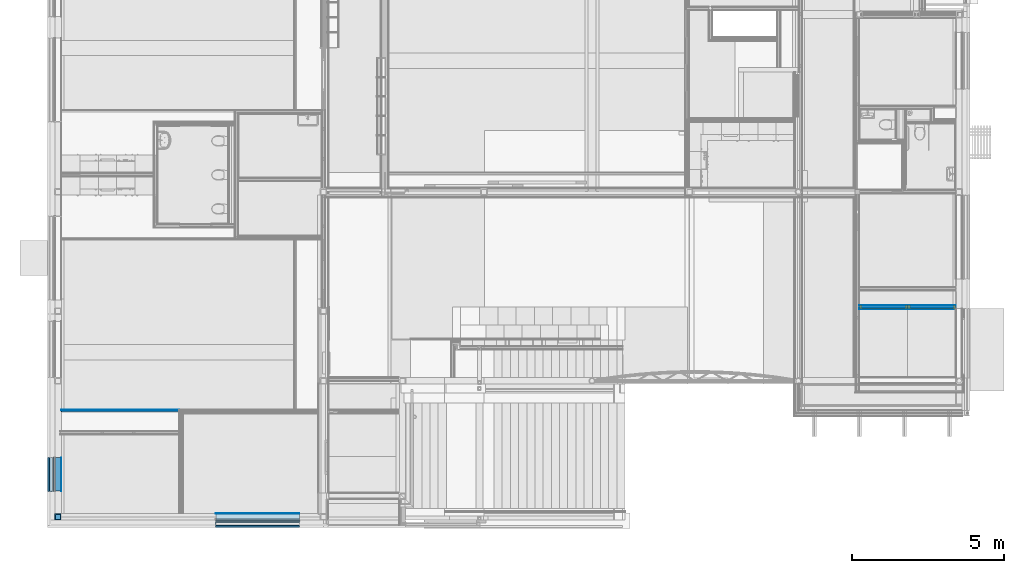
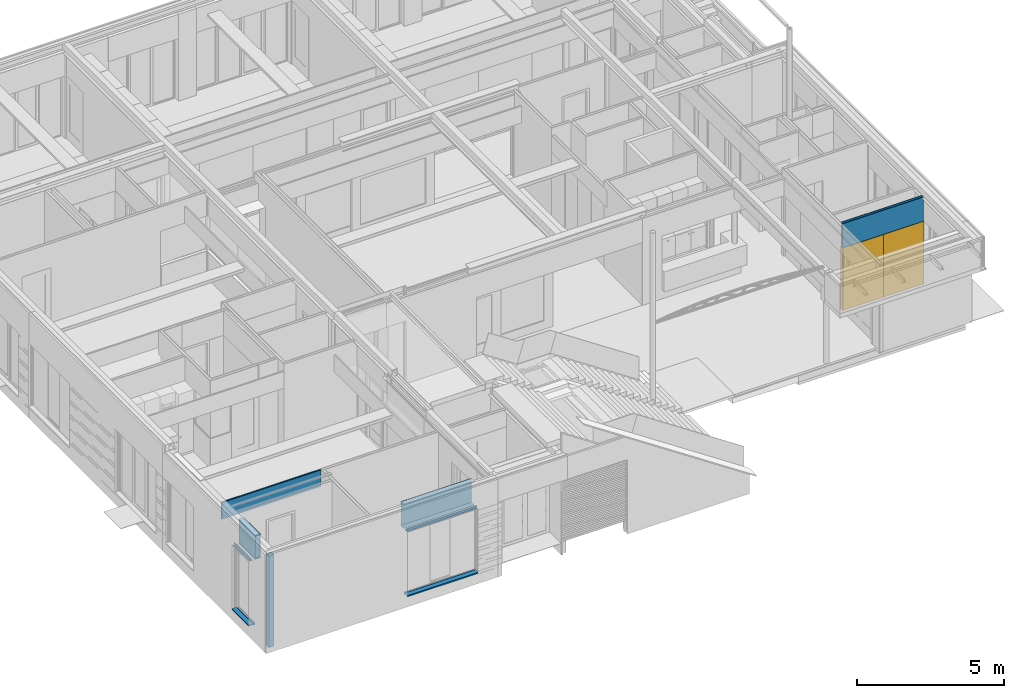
# One storey, part 1 of 165: 22 building element parts, 2 doors, 2 openings, 9 elements without a shape of their own.
"""IFC2X3 building model written with IfcOpenShell, lengths in millimetres."""

import ifcopenshell
import ifcopenshell.guid

model = None  # the IFC model being written
_history = None  # IfcOwnerHistory: only IFC2X3 demands one
_inside = {}  # id of a spatial element -> (the spatial element, [elements in it])
_under = {}  # id of a project, library or spatial element -> (it, [spatial elements below it])
_declared = {}  # id of a project -> (the project, [libraries it declares])
_typed = {}  # id of a type object -> (the type object, [elements of that type])
_made_of = {}  # id of a material, layer set ... -> (it, [elements and type objects made of it])


def new_model(schema):
    """Start an empty IFC model of exactly this schema.

    Asked for "IFC4X3", IfcOpenShell would pick the latest addendum, in which some entities
    have other attributes; the version numbers below select the first issue.
    IFC2X3 requires an IfcOwnerHistory on every rooted entity: one is made here for all.
    """
    global model, _history
    if schema == "IFC4X3":
        model = ifcopenshell.file(schema_version=(4, 3, 0, 0))
    else:
        model = ifcopenshell.file(schema=schema)
    _inside.clear()
    _under.clear()
    _declared.clear()
    _typed.clear()
    _made_of.clear()
    _history = None
    if model.schema == "IFC2X3":
        org = make("IfcOrganization", Name="unknown")
        user = make(
            "IfcPersonAndOrganization",
            ThePerson=make("IfcPerson", FamilyName="unknown"),
            TheOrganization=org,
        )
        app = make(
            "IfcApplication",
            ApplicationDeveloper=org,
            Version="unknown",
            ApplicationFullName="unknown",
            ApplicationIdentifier="unknown",
        )
        _history = make(
            "IfcOwnerHistory",
            OwningUser=user,
            OwningApplication=app,
            ChangeAction="ADDED",
            CreationDate=0,
        )
    return model


def make(cls, **values):
    """One entity of the class cls with the attributes given. An attribute that is None is left unset."""
    return model.create_entity(
        cls, **{name: value for name, value in values.items() if value is not None}
    )


def entity(cls, *values):
    """Any entity or typed value of the class cls, its attributes in the order of the schema. None: left unset."""
    e = model.create_entity(cls)
    for i, value in enumerate(values):
        if value is not None:
            e[i] = value
    return e


def rooted(cls, **values):
    """An entity with a GlobalId (a new one), such as an element, a storey or a relation."""
    return make(cls, GlobalId=ifcopenshell.guid.new(), OwnerHistory=_history, **values)


def si_unit(unit_type, name, prefix=None):
    """IfcSIUnit, for example si_unit("LENGTHUNIT", "METRE", prefix="MILLI")."""
    return make("IfcSIUnit", UnitType=unit_type, Prefix=prefix, Name=name)


def converted_unit(unit_type, name, factor, base, dimensions=None, offset=None):
    """IfcConversionBasedUnit, such as the inch: factor (a typed value) times the base unit."""
    return make(
        "IfcConversionBasedUnit"
        if offset is None
        else "IfcConversionBasedUnitWithOffset",
        ConversionOffset=offset,
        Dimensions=None
        if dimensions is None
        else entity("IfcDimensionalExponents", *dimensions),
        UnitType=unit_type,
        Name=name,
        ConversionFactor=make(
            "IfcMeasureWithUnit", ValueComponent=factor, UnitComponent=base
        ),
    )


def derived_unit(unit_type, elements):
    """IfcDerivedUnit: a product of units, each with its exponent."""
    return make(
        "IfcDerivedUnit",
        Elements=[
            make("IfcDerivedUnitElement", Unit=unit, Exponent=power)
            for unit, power in elements
        ],
        UnitType=unit_type,
    )


def money_unit(currency):
    """IfcMonetaryUnit."""
    return make("IfcMonetaryUnit", Currency=currency)


def assignment(units):
    """IfcUnitAssignment: the units of a project."""
    return None if units is None else make("IfcUnitAssignment", Units=units)


def point(xyz):
    """IfcCartesianPoint."""
    return None if xyz is None else make("IfcCartesianPoint", Coordinates=xyz)


def direction(xyz):
    """IfcDirection."""
    return None if xyz is None else make("IfcDirection", DirectionRatios=xyz)


def frame(location, z_axis=None, x_axis=None):
    """IfcAxis2Placement3D, a coordinate frame: its origin and axes. An axis left out is left unset."""
    return make(
        "IfcAxis2Placement3D",
        Location=point(location),
        Axis=direction(z_axis),
        RefDirection=direction(x_axis),
    )


def origin_with_axes():
    """The frame at (0, 0, 0) with the z axis (0, 0, 1) and the x axis (1, 0, 0) written out."""
    return frame((0.0, 0.0, 0.0), z_axis=(0.0, 0.0, 1.0), x_axis=(1.0, 0.0, 0.0))


def place(relative_to, where):
    """IfcLocalPlacement: puts the frame where relative to a parent placement (None: the world)."""
    return make(
        "IfcLocalPlacement", PlacementRelTo=relative_to, RelativePlacement=where
    )


def context(
    kind, dimensions, precision=None, world=None, true_north=None, identifier=None
):
    """IfcGeometricRepresentationContext, for example the 3D "Model" context."""
    return make(
        "IfcGeometricRepresentationContext",
        ContextIdentifier=identifier,
        ContextType=kind,
        CoordinateSpaceDimension=dimensions,
        Precision=precision,
        WorldCoordinateSystem=world,
        TrueNorth=true_north,
    )


def subcontext(parent, identifier, kind, view, scale=None):
    """IfcGeometricRepresentationSubContext, for example "Body" below "Model"."""
    return make(
        "IfcGeometricRepresentationSubContext",
        ContextIdentifier=identifier,
        ContextType=kind,
        ParentContext=parent,
        TargetScale=scale,
        TargetView=view,
    )


def project(units=None, contexts=None):
    """IfcProject with its units and contexts."""
    return rooted(
        "IfcProject",
        Name="project",
        RepresentationContexts=contexts,
        UnitsInContext=assignment(units),
    )


def spatial(cls, under=None, at=None, **own):
    """A site, building, storey or space (cls), placed at a placement, below another one or the project."""
    s = rooted(cls, ObjectPlacement=at, **own)
    if under is not None:
        _under.setdefault(under.id(), (under, []))[1].append(s)
    return s


def faces_of(points, faces, orient=None, outer=None):
    """IfcFace entities. A face is a list of loops; a loop is a list of indices into points, from 0.

    orient and outer hold one flag for each loop. By default every Orientation is true, the
    first loop of a face is its IfcFaceOuterBound and the others are IfcFaceBound.
    """
    made = []
    for i, loops in enumerate(faces):
        bounds = []
        for j, loop in enumerate(loops):
            is_outer = j == 0 if outer is None else outer[i][j]
            bounds.append(
                make(
                    "IfcFaceOuterBound" if is_outer else "IfcFaceBound",
                    Bound=make("IfcPolyLoop", Polygon=[points[k] for k in loop]),
                    Orientation=True if orient is None else orient[i][j],
                )
            )
        made.append(make("IfcFace", Bounds=bounds))
    return made


def faceted_brep(points, faces, orient=None, outer=None, voids=None):
    """IfcFacetedBrep: a solid bounded by flat faces; with voids (closed shells), ...WithVoids."""
    shared = [point(p) for p in points]
    hull = make("IfcClosedShell", CfsFaces=faces_of(shared, faces, orient, outer))
    if voids is None:
        return make("IfcFacetedBrep", Outer=hull)
    return make(
        "IfcFacetedBrepWithVoids",
        Outer=hull,
        Voids=[
            make(cls, CfsFaces=faces_of(shared, fs, o, b)) for cls, fs, o, b in voids
        ],
    )


def shape(context_of_items, identifier, shape_type, items):
    """IfcShapeRepresentation: the items that make up one representation, for example the "Body"."""
    return make(
        "IfcShapeRepresentation",
        ContextOfItems=context_of_items,
        RepresentationIdentifier=identifier,
        RepresentationType=shape_type,
        Items=items,
    )


def source(mapping_origin, context_of_items, identifier, shape_type, items):
    """IfcRepresentationMap: a shape defined once, which mapped items show again and again."""
    return make(
        "IfcRepresentationMap",
        MappingOrigin=mapping_origin,
        MappedRepresentation=shape(context_of_items, identifier, shape_type, items),
    )


def transform(
    local_origin,
    x_axis=None,
    y_axis=None,
    z_axis=None,
    scale=None,
    scale2=None,
    scale3=None,
    uniform=True,
):
    """IfcCartesianTransformationOperator3D, or its non-uniform kind. x_axis, y_axis, z_axis: its Axis1, 2, 3."""
    if uniform:
        return make(
            "IfcCartesianTransformationOperator3D",
            Axis1=direction(x_axis),
            Axis2=direction(y_axis),
            LocalOrigin=point(local_origin),
            Scale=scale,
            Axis3=direction(z_axis),
        )
    return make(
        "IfcCartesianTransformationOperator3DnonUniform",
        Axis1=direction(x_axis),
        Axis2=direction(y_axis),
        LocalOrigin=point(local_origin),
        Scale=scale,
        Axis3=direction(z_axis),
        Scale2=scale2,
        Scale3=scale3,
    )


def mapped(mapping_source, mapping_target):
    """IfcMappedItem: shows the shape of a source again, moved by a transform."""
    return make(
        "IfcMappedItem", MappingSource=mapping_source, MappingTarget=mapping_target
    )


def material(Name=None, Category=None):
    """IfcMaterial."""
    return make("IfcMaterial", Name=Name, Category=Category)


def made_of(thing, what):
    """Note that an element or type object is made of a material, layer set ...; save() writes the relation."""
    if what is not None:
        _made_of.setdefault(what.id(), (what, []))[1].append(thing)
    return thing


def type_object(cls, material=None, **own):
    """A type object (cls), such as IfcWallType, which elements share."""
    return made_of(rooted(cls, **own), material)


def type_shapes(of_type, sources):
    """Give a type object the sources (RepresentationMaps) that its elements show as mapped items."""
    of_type.RepresentationMaps = sources


def element(
    cls,
    number,
    at=None,
    inside=None,
    cuts=None,
    type_object=None,
    material=None,
    context=None,
    identifier="Body",
    shape_type=None,
    held_by="IfcProductDefinitionShape",
    body=None,
    shapes=None,
    **own,
):
    """One element of the class cls, such as IfcWall. Its Tag is "e" and its number.

    at: its placement. inside: the storey or other place that contains it. cuts: it is an
    opening in that element (IfcRelVoidsElement). A single representation is given by context,
    identifier, shape_type and body (its items); several are given by shapes. held_by: the class
    of the entity that holds the representations. save() writes the other relations.
    """
    e = rooted(cls, Tag="e%d" % number, ObjectPlacement=at, **own)
    if body is not None:
        shapes = [shape(context, identifier, shape_type, body)]
    if shapes is not None:
        e.Representation = make(held_by, Representations=shapes)
    if inside is not None:
        _inside.setdefault(inside.id(), (inside, []))[1].append(e)
    if cuts is not None:
        rooted(
            "IfcRelVoidsElement", RelatingBuildingElement=cuts, RelatedOpeningElement=e
        )
    if type_object is not None:
        _typed.setdefault(type_object.id(), (type_object, []))[1].append(e)
    return made_of(e, material)


def fill(opening, filler):
    """IfcRelFillsElement: the door or window that sits in an opening."""
    return rooted(
        "IfcRelFillsElement",
        RelatingOpeningElement=opening,
        RelatedBuildingElement=filler,
    )


def aggregate(whole, parts):
    """IfcRelAggregates: a whole, such as a stair, and the parts it consists of."""
    return rooted("IfcRelAggregates", RelatingObject=whole, RelatedObjects=parts)


def save(model, path):
    """Write the relations noted so far, then the file.

    IfcRelAggregates (storeys below a building ...), IfcRelContainedInSpatialStructure (elements
    in a storey), IfcRelDefinesByType, IfcRelAssociatesMaterial and IfcRelDeclares: one each for
    every whole, place, type object, material and project.
    """
    for whole, parts in _under.values():
        aggregate(whole, parts)
    for where, things in _inside.values():
        rooted(
            "IfcRelContainedInSpatialStructure",
            RelatedElements=things,
            RelatingStructure=where,
        )
    for kind, things in _typed.values():
        rooted("IfcRelDefinesByType", RelatedObjects=things, RelatingType=kind)
    for what, things in _made_of.values():
        rooted("IfcRelAssociatesMaterial", RelatedObjects=things, RelatingMaterial=what)
    for by, libraries in _declared.values():
        rooted("IfcRelDeclares", RelatingContext=by, RelatedDefinitions=libraries)
    model.write(path)


model = new_model("IFC2X3")

# Units and contexts
model_context = context("Model", 3, precision=0.01, world=origin_with_axes(), true_north=direction((0.0, 1.0)))
body_context = subcontext(model_context, "Body", "Model", "MODEL_VIEW")
ifc_project = project(units=[si_unit("LENGTHUNIT", "METRE", prefix="MILLI"), si_unit("AREAUNIT", "SQUARE_METRE"), si_unit("VOLUMEUNIT", "CUBIC_METRE"), converted_unit("PLANEANGLEUNIT", "DEGREE", entity("IfcPlaneAngleMeasure", 0.0174532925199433), si_unit("PLANEANGLEUNIT", "RADIAN"), dimensions=[0, 0, 0, 0, 0, 0, 0]), money_unit("EUR"), converted_unit("TIMEUNIT", "Year", entity("IfcTimeMeasure", 31556926.0), si_unit("TIMEUNIT", "SECOND"), dimensions=[0, 0, 1, 0, 0, 0, 0]), si_unit("MASSUNIT", "GRAM", prefix="KILO"), si_unit("THERMODYNAMICTEMPERATUREUNIT", "DEGREE_CELSIUS"), si_unit("LUMINOUSINTENSITYUNIT", "LUMEN"), si_unit("ENERGYUNIT", "JOULE", prefix="MEGA"), derived_unit("THERMALCONDUCTANCEUNIT", [(si_unit("POWERUNIT", "WATT"), 1), (si_unit("LENGTHUNIT", "METRE"), -1), (si_unit("THERMODYNAMICTEMPERATUREUNIT", "KELVIN"), -1)]), derived_unit("SPECIFICHEATCAPACITYUNIT", [(si_unit("ENERGYUNIT", "JOULE"), 1), (si_unit("MASSUNIT", "GRAM", prefix="KILO"), -1), (si_unit("THERMODYNAMICTEMPERATUREUNIT", "KELVIN"), -1)]), derived_unit("MASSDENSITYUNIT", [(si_unit("MASSUNIT", "GRAM", prefix="KILO"), 1), (si_unit("VOLUMEUNIT", "CUBIC_METRE"), -1)])], contexts=[model_context])

# Site, building, storey
site_placement = place(None, origin_with_axes())
site = spatial("IfcSite", under=ifc_project, at=site_placement, Name="Site", CompositionType="ELEMENT")
building_placement = place(site_placement, origin_with_axes())
building = spatial("IfcBuilding", under=site, at=building_placement, Name="Naam gebouw", CompositionType="ELEMENT")
storey_placement = place(building_placement, origin_with_axes())
storey = spatial("IfcBuildingStorey", under=building, at=storey_placement, Name="Begane grond", CompositionType="ELEMENT", Elevation=0.0)

# Door
door_style = type_object("IfcDoorStyle", Name="D2 26", ConstructionType="NOTDEFINED", OperationType="DOUBLE_DOOR_SINGLE_SWING", ParameterTakesPrecedence=False, Sizeable=False)
shared_shape = source(origin_with_axes(), body_context, "Body", "Brep", [
    faceted_brep([(-703.7500000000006, -40.0, 0.0), (-703.7500000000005, -40.0, 2510.0), (-703.7500000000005, -139.0, 2510.0), (-703.7500000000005, -139.0, 0.0), (-720.7500000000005, -40.0, 2510.0), (-720.7500000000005, -40.0, 0.0), (-720.7500000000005, 0.0, 2510.0), (-793.7500000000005, 0.0, 2510.0), (-793.7500000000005, -139.0, 2510.0), (-793.7500000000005, -139.0, 0.0), (-793.7500000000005, 0.0, 0.0), (-720.7500000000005, 0.0, 0.0)], [[[0, 1, 2, 3]], [[4, 1, 0, 5]], [[4, 6, 7, 8, 2, 1]], [[3, 2, 8, 9]], [[5, 0, 3, 9, 10, 11]], [[6, 4, 5, 11]], [[6, 11, 10, 7]], [[10, 9, 8, 7]]]),
    faceted_brep([(720.7500000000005, -40.0, 2510.0), (703.7500000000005, -40.0, 2510.0), (703.7500000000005, -139.0, 2510.0), (793.7500000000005, -139.0, 2510.0), (793.7500000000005, 0.0, 2510.0), (720.7500000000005, 0.0, 2510.0), (720.7500000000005, -40.0, 0.0), (703.7500000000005, -40.0, 0.0), (703.7500000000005, -139.0, 0.0), (793.7500000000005, -139.0, 0.0), (793.7500000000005, 0.0, 0.0), (720.7500000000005, 0.0, 0.0)], [[[0, 1, 2, 3, 4, 5]], [[1, 0, 6, 7]], [[1, 7, 8, 2]], [[3, 2, 8, 9]], [[4, 3, 9, 10]], [[11, 5, 4, 10]], [[0, 5, 11, 6]], [[6, 11, 10, 9, 8, 7]]]),
    faceted_brep([(-720.7500000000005, 0.0, 2527.0), (-720.7500000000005, 0.0, 2510.0), (-793.7500000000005, 0.0, 2510.0), (-793.7500000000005, 0.0, 2600.0), (793.7500000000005, 0.0, 2600.0), (793.7500000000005, 0.0, 2510.0), (720.7500000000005, 0.0, 2510.0), (720.7500000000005, 0.0, 2527.0), (-720.7500000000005, -40.0, 2527.0), (-720.7500000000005, -40.0, 2510.0), (-703.7500000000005, -40.0, 2510.0), (-703.7500000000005, -139.0, 2510.0), (-793.7500000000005, -139.0, 2510.0), (-793.7500000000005, -139.0, 2600.0), (793.7500000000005, -139.0, 2600.0), (793.7500000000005, -139.0, 2510.0), (720.7500000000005, -40.0, 2510.0), (703.7500000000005, -139.0, 2510.0), (703.7500000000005, -40.0, 2510.0), (720.7500000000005, -40.0, 2527.0)], [[[0, 1, 2, 3, 4, 5, 6, 7]], [[1, 0, 8, 9]], [[9, 10, 11, 12, 2, 1]], [[2, 12, 13, 3]], [[3, 13, 14, 4]], [[4, 14, 15, 5]], [[16, 6, 5, 15, 17, 18]], [[7, 6, 16, 19]], [[0, 7, 19, 8]], [[16, 18, 10, 9, 8, 19]], [[10, 18, 17, 11]], [[17, 15, 14, 13, 12, 11]]]),
    faceted_brep([(720.7500000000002, 0.0, 10.0), (720.7500000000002, -40.0, 10.0), (0.0, -40.0, 10.0), (0.0, 0.0, 10.0), (720.7500000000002, 0.0, 2527.0), (720.7500000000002, -40.00000000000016, 2527.0), (0.0, -40.00000000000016, 2527.0), (0.0, 0.0, 2527.0)], [[[0, 1, 2, 3]], [[4, 5, 1, 0]], [[1, 5, 6, 2]], [[3, 2, 6, 7]], [[0, 3, 7, 4]], [[7, 6, 5, 4]]]),
    faceted_brep([(-720.7500000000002, 0.0, 10.0), (0.0, 0.0, 10.0), (0.0, -40.0, 10.0), (-720.7500000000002, -40.0, 10.0), (-720.7500000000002, 0.0, 2527.0), (0.0, 0.0, 2527.0), (0.0, -40.00000000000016, 2527.0), (-720.7500000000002, -40.00000000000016, 2527.0)], [[[0, 1, 2, 3]], [[0, 4, 5, 1]], [[1, 5, 6, 2]], [[3, 2, 6, 7]], [[4, 0, 3, 7]], [[5, 4, 7, 6]]]),
])
type_shapes(door_style, [shared_shape])
proxy_1_placement = place(storey_placement, frame((26386.0, 6949.997857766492, -100.0), z_axis=(0.0, 0.0, 1.0), x_axis=(1.0, 0.0, 0.0)))
opening_1_placement = place(proxy_1_placement, frame((918.7499999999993, 0.0, 100.0), z_axis=(0.0, 0.0, 1.0), x_axis=(1.0, 0.0, 0.0)))
door_1_placement = place(opening_1_placement, frame((703.7499999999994, 0.0, 0.0), z_axis=(0.0, 0.0, 1.0), x_axis=(-1.0, 0.0, 0.0)))
door_1 = element("IfcDoor", 1, at=door_1_placement, inside=storey, type_object=door_style, Name="_03.04", ObjectType="DOOR", OverallHeight=2600.0, OverallWidth=1587.5, context=body_context, shape_type="MappedRepresentation", body=[
    mapped(shared_shape, transform((703.7499999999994, 6.999999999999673, 0.0))),
])

opening_2_placement = place(proxy_1_placement, frame((2506.249999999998, 0.0, 100.0), z_axis=(0.0, 0.0, 1.0), x_axis=(1.0, 0.0, 0.0)))
door_2_placement = place(opening_2_placement, frame((703.7499999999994, 0.0, 0.0), z_axis=(0.0, 0.0, 1.0), x_axis=(-1.0, 0.0, 0.0)))
door_2 = element("IfcDoor", 2, at=door_2_placement, inside=storey, type_object=door_style, Name="_03.04", ObjectType="DOOR", OverallHeight=2600.0, OverallWidth=1587.5, context=body_context, shape_type="MappedRepresentation", body=[
    mapped(shared_shape, transform((703.7499999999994, 6.999999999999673, 0.0))),
])

# Column, building element parts
column_type = type_object("IfcColumnType", Name="200X200X10 200 x 200", PredefinedType="COLUMN")
column_placement = place(storey_placement, frame((99.99999999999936, 99.99999999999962, -480.0), z_axis=(0.0, 0.0, 1.0), x_axis=(1.0, 0.0, 0.0)))
column = element("IfcColumn", 3, at=column_placement, inside=storey, type_object=column_type, Name="28_Kolom-x", ObjectType="COLUMN")
ifc_material_1 = material(Name="Beton gewapend C")
building_element_part_1_placement = place(column_placement, origin_with_axes())
building_element_part_1 = element("IfcBuildingElementPart", 4, at=building_element_part_1_placement, material=ifc_material_1, Name="Beton gewapend C", context=body_context, shape_type="Brep", body=[
    faceted_brep([(-90.0, 89.99999999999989, 3770.0), (90.0, 89.99999999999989, 3770.0), (90.0, 89.99999999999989, 0.0), (-90.0, 89.99999999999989, 0.0), (90.0, -89.99999999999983, 3770.0), (-90.0, -89.99999999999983, 3770.0), (90.0, -89.99999999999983, 0.0), (-90.0, -89.99999999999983, 0.0)], [[[0, 1, 2, 3]], [[4, 1, 0, 5]], [[1, 4, 6, 2]], [[2, 6, 7, 3]], [[5, 0, 3, 7]], [[4, 5, 7, 6]]]),
    faceted_brep([(90.0, -89.99999999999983, 3785.0), (90.0, 89.99999999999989, 3785.0), (90.0, 89.99999999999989, 3790.0), (90.0, -89.99999999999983, 3790.0), (-90.0, 89.99999999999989, 3785.0), (-90.0, -89.99999999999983, 3785.0), (-90.0, 89.99999999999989, 3790.0), (-90.0, -89.99999999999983, 3790.0)], [[[0, 1, 2, 3]], [[4, 1, 0, 5]], [[1, 4, 6, 2]], [[2, 6, 7, 3]], [[5, 0, 3, 7]], [[4, 5, 7, 6]]]),
])
ifc_material_2 = material(Name="Metaal - Staal C")
building_element_part_2_placement = place(column_placement, origin_with_axes())
building_element_part_2 = element("IfcBuildingElementPart", 5, at=building_element_part_2_placement, material=ifc_material_2, Name="Metaal - Staal C", context=body_context, shape_type="Brep", body=[
    faceted_brep([(-100.0, -100.0, 0.0), (100.0, -100.0, 0.0), (100.0, -100.0, 3790.0), (-100.0, -100.0, 3790.0), (-100.0, 100.0, 0.0), (100.0, 100.0, 0.0), (-90.00000000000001, -90.00000000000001, 0.0), (90.00000000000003, -90.00000000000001, 0.0), (90.00000000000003, 90.0, 0.0), (-90.00000000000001, 90.0, 0.0), (100.0, 100.0, 3790.0), (-100.0, 100.0, 3790.0), (-90.00000000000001, -90.00000000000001, 3790.0), (-90.00000000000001, 90.0, 3790.0), (90.00000000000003, 90.0, 3790.0), (90.00000000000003, -90.00000000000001, 3790.0)], [[[0, 1, 2, 3]], [[0, 4, 5, 1], [6, 7, 8, 9]], [[1, 5, 10, 2]], [[3, 2, 10, 11], [12, 13, 14, 15]], [[4, 0, 3, 11]], [[5, 4, 11, 10]], [[7, 6, 12, 15]], [[8, 7, 15, 14]], [[9, 8, 14, 13]], [[6, 9, 13, 12]]]),
])
aggregate(column, [building_element_part_1, building_element_part_2])

# Proxy, opening
building_element_proxy_type_1 = type_object("IfcBuildingElementProxyType", Name="22 Metal stud 125 gips 125", PredefinedType="NOTDEFINED")
proxy_1 = element("IfcBuildingElementProxy", 6, at=proxy_1_placement, inside=storey, type_object=building_element_proxy_type_1, Name="_Wand-x")
opening_1 = element("IfcOpeningElement", 7, at=opening_1_placement, cuts=proxy_1, Name="_03.04", context=body_context, shape_type="Brep", body=[
    faceted_brep([(793.7499999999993, 126.0000000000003, 2600.0), (793.7499999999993, 126.0000000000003, -100.0000000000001), (-793.7499999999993, 126.0000000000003, -100.0000000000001), (-793.7499999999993, 126.0000000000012, 2600.0), (793.7499999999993, -1.000000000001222, 2600.0), (793.7499999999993, -1.000000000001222, -100.0000000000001), (-793.7499999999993, -1.000000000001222, -100.0000000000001), (-793.7499999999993, -1.000000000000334, 2600.0)], [[[0, 1, 2, 3]], [[4, 5, 1, 0]], [[5, 6, 2, 1]], [[6, 7, 3, 2]], [[7, 4, 0, 3]], [[6, 5, 4, 7]]]),
])

fill(opening_1, door_1)

# Opening
opening_2 = element("IfcOpeningElement", 8, at=opening_2_placement, cuts=proxy_1, Name="_03.04", context=body_context, shape_type="Brep", body=[
    faceted_brep([(793.7499999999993, 126.0000000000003, 2600.0), (793.7499999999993, 126.0000000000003, -100.0000000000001), (-793.7499999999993, 126.0000000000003, -100.0000000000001), (-793.7499999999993, 126.0000000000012, 2600.0), (793.7499999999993, -1.000000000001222, 2600.0), (793.7499999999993, -1.000000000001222, -100.0000000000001), (-793.7499999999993, -1.000000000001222, -100.0000000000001), (-793.7499999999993, -1.000000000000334, 2600.0)], [[[0, 1, 2, 3]], [[4, 5, 1, 0]], [[5, 6, 2, 1]], [[6, 7, 3, 2]], [[7, 4, 0, 3]], [[6, 5, 4, 7]]]),
])

fill(opening_2, door_2)

# Building element part
ifc_material_3 = material(Name="Gipsplaat")
building_element_part_3_placement = place(proxy_1_placement, origin_with_axes())
building_element_part_3 = element("IfcBuildingElementPart", 9, at=building_element_part_3_placement, material=ifc_material_3, Name="Gipsplaat", context=body_context, shape_type="Brep", body=[
    faceted_brep([(3299.999999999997, 112.5000000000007, 2700.0), (3299.999999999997, 125.0, 2700.0), (3299.999999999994, 125.0, 3683.0), (3299.999999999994, 112.5000000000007, 3683.0), (1712.499999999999, 125.0, 2700.0), (1712.499999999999, 112.5000000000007, 2700.0), (125.0, 112.4999999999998, 2700.0), (125.0, 125.0, 2700.0), (125.0000000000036, 125.0, 3700.0), (3299.999999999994, 125.0, 3700.0), (3299.999999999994, 125.0, 3695.0), (3214.999995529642, 125.0, 3695.0), (3214.999995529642, 125.0, 3683.0), (3214.999995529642, 112.5000000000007, 3683.0), (3214.999995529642, 112.5000000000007, 3695.0), (3299.999999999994, 112.5000000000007, 3695.0), (3299.999999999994, 112.5000000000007, 3700.0), (125.0000000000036, 112.4999999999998, 3700.0)], [[[0, 1, 2, 3]], [[4, 1, 0, 5, 6, 7]], [[1, 4, 7, 8, 9, 10, 11, 12, 2]], [[12, 13, 3, 2]], [[5, 0, 3, 13, 14, 15, 16, 17, 6]], [[6, 17, 8, 7]], [[8, 17, 16, 9]], [[9, 16, 15, 10]], [[15, 14, 11, 10]], [[14, 13, 12, 11]]]),
])

ifc_material_4 = material(Name="ALG - LICHTE SCHEIDINGSWAND")
building_element_part_4_placement = place(proxy_1_placement, origin_with_axes())
building_element_part_4 = element("IfcBuildingElementPart", 10, at=building_element_part_4_placement, material=ifc_material_4, Name="ALG - LICHTE SCHEIDINGSWAND", context=body_context, shape_type="Brep", body=[
    faceted_brep([(3299.999999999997, 25.00000000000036, 2700.0), (3299.999999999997, 100.0000000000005, 2700.0), (3299.999999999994, 100.0000000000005, 3683.0), (3299.999999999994, 25.00000000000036, 3683.0), (1712.499999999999, 99.99999999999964, 2700.0), (1712.499999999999, 25.00000000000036, 2700.0), (125.0, 25.00000000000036, 2700.0), (125.0, 100.0000000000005, 2700.0), (125.0000000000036, 100.0000000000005, 3700.0), (3299.999999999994, 100.0000000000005, 3700.0), (3299.999999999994, 100.0000000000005, 3695.0), (3214.999995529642, 99.99999999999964, 3695.0), (3214.999995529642, 99.99999999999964, 3683.0), (3214.999995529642, 25.00000000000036, 3683.0), (3214.999995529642, 25.00000000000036, 3695.0), (3299.999999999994, 25.00000000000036, 3695.0), (3299.999999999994, 25.00000000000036, 3700.0), (125.0000000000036, 25.00000000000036, 3700.0)], [[[0, 1, 2, 3]], [[4, 1, 0, 5, 6, 7]], [[1, 4, 7, 8, 9, 10, 11, 12, 2]], [[12, 13, 3, 2]], [[5, 0, 3, 13, 14, 15, 16, 17, 6]], [[6, 17, 8, 7]], [[8, 17, 16, 9]], [[9, 16, 15, 10]], [[15, 14, 11, 10]], [[14, 13, 12, 11]]]),
])

building_element_part_5_placement = place(proxy_1_placement, origin_with_axes())
building_element_part_5 = element("IfcBuildingElementPart", 11, at=building_element_part_5_placement, material=ifc_material_3, Name="Gipsplaat", context=body_context, shape_type="Brep", body=[
    faceted_brep([(3299.999999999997, 100.0000000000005, 2700.0), (3299.999999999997, 112.5000000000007, 2700.0), (3299.999999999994, 112.5000000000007, 3683.0), (3299.999999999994, 100.0000000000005, 3683.0), (1712.499999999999, 112.4999999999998, 2700.0), (1712.499999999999, 99.99999999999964, 2700.0), (125.0, 100.0000000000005, 2700.0), (125.0, 112.4999999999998, 2700.0), (125.0000000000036, 112.4999999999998, 3700.0), (3299.999999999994, 112.5000000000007, 3700.0), (3299.999999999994, 112.5000000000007, 3695.0), (3214.999995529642, 112.4999999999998, 3695.0), (3214.999995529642, 112.4999999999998, 3683.0), (3214.999995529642, 99.99999999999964, 3683.0), (3214.999995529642, 99.99999999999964, 3695.0), (3299.999999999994, 100.0000000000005, 3695.0), (3299.999999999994, 100.0000000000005, 3700.0), (125.0000000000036, 100.0000000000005, 3700.0)], [[[0, 1, 2, 3]], [[4, 1, 0, 5, 6, 7]], [[1, 4, 7, 8, 9, 10, 11, 12, 2]], [[12, 13, 3, 2]], [[5, 0, 3, 13, 14, 15, 16, 17, 6]], [[6, 17, 8, 7]], [[8, 17, 16, 9]], [[9, 16, 15, 10]], [[15, 14, 11, 10]], [[14, 13, 12, 11]]]),
])

building_element_part_6_placement = place(proxy_1_placement, origin_with_axes())
building_element_part_6 = element("IfcBuildingElementPart", 12, at=building_element_part_6_placement, material=ifc_material_3, Name="Gipsplaat", context=body_context, shape_type="Brep", body=[
    faceted_brep([(3299.999999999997, 12.50000000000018, 2700.0), (3299.999999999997, 25.00000000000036, 2700.0), (3299.999999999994, 25.00000000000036, 3683.0), (3299.999999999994, 12.50000000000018, 3683.0), (1712.499999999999, 25.00000000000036, 2700.0), (1712.499999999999, 12.50000000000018, 2700.0), (125.0, 12.50000000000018, 2700.0), (125.0, 25.00000000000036, 2700.0), (125.0000000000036, 25.00000000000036, 3700.0), (3299.999999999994, 25.00000000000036, 3700.0), (3299.999999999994, 25.00000000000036, 3695.0), (3214.999995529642, 25.00000000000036, 3695.0), (3214.999995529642, 25.00000000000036, 3683.0), (3214.999995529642, 12.50000000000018, 3683.0), (3214.999995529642, 12.50000000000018, 3695.0), (3299.999999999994, 12.50000000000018, 3695.0), (3299.999999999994, 12.50000000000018, 3700.0), (125.0000000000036, 12.50000000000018, 3700.0)], [[[0, 1, 2, 3]], [[4, 1, 0, 5, 6, 7]], [[1, 4, 7, 8, 9, 10, 11, 12, 2]], [[12, 13, 3, 2]], [[5, 0, 3, 13, 14, 15, 16, 17, 6]], [[6, 17, 8, 7]], [[8, 17, 16, 9]], [[9, 16, 15, 10]], [[15, 14, 11, 10]], [[14, 13, 12, 11]]]),
])

building_element_part_7_placement = place(proxy_1_placement, origin_with_axes())
building_element_part_7 = element("IfcBuildingElementPart", 13, at=building_element_part_7_placement, material=ifc_material_3, Name="Gipsplaat", context=body_context, shape_type="Brep", body=[
    faceted_brep([(3299.999999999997, 0.0, 2700.0), (3299.999999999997, 12.50000000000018, 2700.0), (3299.999999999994, 12.50000000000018, 3683.0), (3299.999999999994, 0.0, 3683.0), (1712.499999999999, 12.50000000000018, 2700.0), (1712.499999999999, 0.0, 2700.0), (125.0, 0.0, 2700.0), (125.0, 12.50000000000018, 2700.0), (125.0000000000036, 12.50000000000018, 3700.0), (3299.999999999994, 12.50000000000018, 3700.0), (3299.999999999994, 12.50000000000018, 3695.0), (3214.999995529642, 12.50000000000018, 3695.0), (3214.999995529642, 12.50000000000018, 3683.0), (3214.999995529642, 0.0, 3683.0), (3214.999995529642, 0.0, 3695.0), (3299.999999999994, 0.0, 3695.0), (3299.999999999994, 0.0, 3700.0), (125.0000000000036, 0.0, 3700.0)], [[[0, 1, 2, 3]], [[4, 1, 0, 5, 6, 7]], [[1, 4, 7, 8, 9, 10, 11, 12, 2]], [[12, 13, 3, 2]], [[5, 0, 3, 13, 14, 15, 16, 17, 6]], [[6, 17, 8, 7]], [[8, 17, 16, 9]], [[9, 16, 15, 10]], [[15, 14, 11, 10]], [[14, 13, 12, 11]]]),
])

aggregate(proxy_1, [building_element_part_3, building_element_part_4, building_element_part_5, building_element_part_6, building_element_part_7])

# Beam, building element parts
beam_type_1 = type_object("IfcBeamType", Name="41 Latei/geveldrager 158 x 112", PredefinedType="BEAM")
beam_1_placement = place(storey_placement, frame((-180.0000000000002, 939.9957121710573, 2610.0), z_axis=(0.0, 0.0, 1.0), x_axis=(1.0, 0.0, 0.0)))
beam_1 = element("IfcBeam", 14, at=beam_1_placement, inside=storey, type_object=beam_type_1, Name="_Regenwaterafvoer-x", ObjectType="BEAM")
building_element_part_8_placement = place(beam_1_placement, origin_with_axes())
building_element_part_8 = element("IfcBuildingElementPart", 15, at=building_element_part_8_placement, material=ifc_material_2, Name="Metaal - Staal C", context=body_context, shape_type="Brep", body=[
    faceted_brep([(-49.99999999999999, 1120.0, 6.55651533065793e-07), (-49.99999999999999, 1120.0, -3.000000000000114), (-49.99999999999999, 0.0, -3.000000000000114), (-49.99999999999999, 0.0, 6.55651533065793e-07), (-5.960468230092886e-08, 1120.0, 6.55651533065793e-07), (-5.960468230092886e-08, 1120.0, 99.3417707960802), (16.54654975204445, 1120.0, 108.894926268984), (18.04655007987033, 1120.0, 106.296849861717), (3.000000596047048, 1120.0, 96.99999988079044), (3.000000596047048, 1120.0, 6.55651533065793e-07), (3.000000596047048, 1120.0, -3.000000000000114), (3.000000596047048, 0.0, -3.000000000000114), (3.000000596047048, 0.0, 6.55651533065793e-07), (3.000000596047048, 0.0, 96.99999988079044), (18.04655007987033, 0.0, 106.296849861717), (16.54654975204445, 0.0, 108.894926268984), (-5.960468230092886e-08, 0.0, 99.3417707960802), (-5.960468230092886e-08, 0.0, 6.55651533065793e-07)], [[[0, 1, 2, 3]], [[0, 4, 5, 6, 7, 8, 9, 10, 1]], [[1, 10, 11, 2]], [[3, 2, 11, 12, 13, 14, 15, 16, 17]], [[4, 0, 3, 17]], [[5, 4, 17, 16]], [[6, 5, 16, 15]], [[7, 6, 15, 14]], [[8, 7, 14, 13]], [[9, 8, 13, 12]], [[10, 9, 12, 11]]]),
])
building_element_part_9_placement = place(beam_1_placement, origin_with_axes())
building_element_part_9 = element("IfcBuildingElementPart", 16, at=building_element_part_9_placement, material=ifc_material_2, Name="Metaal - Staal C", context=body_context, shape_type="Brep", body=[
    faceted_brep([(3.000000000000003, 1120.0, -3.000000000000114), (108.0, 1120.0, -3.000000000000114), (108.0, 0.0, -3.000000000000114), (3.000000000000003, 0.0, -3.000000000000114), (3.000000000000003, 1120.0, 0.0), (108.0, 1120.0, 0.0), (108.0, 0.0, 0.0), (3.000000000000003, 0.0, 0.0)], [[[0, 1, 2, 3]], [[0, 4, 5, 1]], [[1, 5, 6, 2]], [[3, 2, 6, 7]], [[4, 0, 3, 7]], [[5, 4, 7, 6]]]),
])
aggregate(beam_1, [building_element_part_8, building_element_part_9])

beam_2_placement = place(storey_placement, frame((8065.999999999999, -180.0, 2610.0), z_axis=(0.0, 0.0, 1.0), x_axis=(0.0, 1.0, 0.0)))
beam_2 = element("IfcBeam", 17, at=beam_2_placement, inside=storey, type_object=beam_type_1, Name="_Regenwaterafvoer-x", ObjectType="BEAM")
building_element_part_10_placement = place(beam_2_placement, origin_with_axes())
building_element_part_10 = element("IfcBuildingElementPart", 18, at=building_element_part_10_placement, material=ifc_material_2, Name="Metaal - Staal C", context=body_context, shape_type="Brep", body=[
    faceted_brep([(3.000000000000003, 2770.0, -3.000000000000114), (108.0, 2770.0, -3.000000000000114), (108.0, 0.0, -3.000000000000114), (3.000000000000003, 0.0, -3.000000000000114), (3.000000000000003, 2770.0, 0.0), (108.0, 2770.0, 0.0), (108.0, 0.0, 0.0), (3.000000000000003, 0.0, 0.0)], [[[0, 1, 2, 3]], [[0, 4, 5, 1]], [[1, 5, 6, 2]], [[3, 2, 6, 7]], [[4, 0, 3, 7]], [[5, 4, 7, 6]]]),
])
building_element_part_11_placement = place(beam_2_placement, origin_with_axes())
building_element_part_11 = element("IfcBuildingElementPart", 19, at=building_element_part_11_placement, material=ifc_material_2, Name="Metaal - Staal C", context=body_context, shape_type="Brep", body=[
    faceted_brep([(-49.99999999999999, 2770.0, 6.55651533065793e-07), (-49.99999999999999, 2770.0, -3.000000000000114), (-49.99999999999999, 0.0, -3.000000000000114), (-49.99999999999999, 0.0, 6.55651533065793e-07), (-5.960468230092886e-08, 2770.0, 6.55651533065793e-07), (-5.960468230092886e-08, 2770.0, 99.3417707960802), (16.54654975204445, 2770.0, 108.894926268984), (18.04655007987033, 2770.0, 106.296849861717), (3.000000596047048, 2770.0, 96.99999988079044), (3.000000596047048, 2770.0, 6.55651533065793e-07), (3.000000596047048, 2770.0, -3.000000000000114), (3.000000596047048, 0.0, -3.000000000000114), (3.000000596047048, 0.0, 6.55651533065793e-07), (3.000000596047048, 0.0, 96.99999988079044), (18.04655007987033, 0.0, 106.296849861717), (16.54654975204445, 0.0, 108.894926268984), (-5.960468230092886e-08, 0.0, 99.3417707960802), (-5.960468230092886e-08, 0.0, 6.55651533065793e-07)], [[[0, 1, 2, 3]], [[0, 4, 5, 6, 7, 8, 9, 10, 1]], [[1, 10, 11, 2]], [[3, 2, 11, 12, 13, 14, 15, 16, 17]], [[4, 0, 3, 17]], [[5, 4, 17, 16]], [[6, 5, 16, 15]], [[7, 6, 15, 14]], [[8, 7, 14, 13]], [[9, 8, 13, 12]], [[10, 9, 12, 11]]]),
])
aggregate(beam_2, [building_element_part_10, building_element_part_11])

beam_type_2 = type_object("IfcBeamType", Name="31 Betondorpel 250 x 90", PredefinedType="BEAM")
beam_3_placement = place(storey_placement, frame((-249.9999999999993, 939.9957121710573, -100.0000000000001), z_axis=(0.0, 0.0, 1.0), x_axis=(1.0, 0.0, 0.0)))
beam_3 = element("IfcBeam", 20, at=beam_3_placement, inside=storey, type_object=beam_type_2, Name="_Regenwaterafvoer-x", ObjectType="BEAM")
ifc_material_5 = material(Name="Isolatie - Kunststof hard")
building_element_part_12_placement = place(beam_3_placement, origin_with_axes())
building_element_part_12 = element("IfcBuildingElementPart", 21, at=building_element_part_12_placement, material=ifc_material_5, Name="Isolatie - Kunststof hard", context=body_context, shape_type="Brep", body=[
    faceted_brep([(200.0, 1120.0, 0.0), (250.0, 1120.0, 0.0), (250.0, 0.0, 0.0), (200.0, 0.0, 0.0), (200.0, 1120.0, 30.04212815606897), (200.0, 1120.0, 90.00000000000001), (250.0, 1120.0, 90.00000000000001), (250.0, 0.0, 90.00000000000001), (200.0, 0.0, 90.00000000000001), (200.0, 0.0, 30.04212815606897)], [[[0, 1, 2, 3]], [[0, 4, 5, 6, 1]], [[1, 6, 7, 2]], [[3, 2, 7, 8, 9]], [[4, 0, 3, 9]], [[5, 4, 9, 8]], [[6, 5, 8, 7]]]),
])
ifc_material_6 = material(Name="Beton gewapend prefab")
building_element_part_13_placement = place(beam_3_placement, origin_with_axes())
building_element_part_13 = element("IfcBuildingElementPart", 22, at=building_element_part_13_placement, material=ifc_material_6, Name="Beton gewapend prefab", context=body_context, shape_type="Brep", body=[
    faceted_brep([(0.0, 1120.0, 30.04212834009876), (170.0, 1120.0, 30.04212834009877), (170.0, 0.0, 30.04212834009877), (0.0, 0.0, 30.04212834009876), (0.0, 1120.0, 80.04212834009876), (170.0, 1120.0, 90.04212834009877), (170.0, 1120.0, 90.00000000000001), (170.0, 0.0, 90.00000000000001), (170.0, 0.0, 90.04212834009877), (0.0, 0.0, 80.04212834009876)], [[[0, 1, 2, 3]], [[0, 4, 5, 6, 1]], [[1, 6, 7, 2]], [[3, 2, 7, 8, 9]], [[4, 0, 3, 9]], [[5, 4, 9, 8]], [[6, 5, 8, 7]]]),
])
aggregate(beam_3, [building_element_part_12, building_element_part_13])

beam_4_placement = place(storey_placement, frame((8065.999999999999, -250.0, -100.0000000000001), z_axis=(0.0, 0.0, 1.0), x_axis=(0.0, 1.0, 0.0)))
beam_4 = element("IfcBeam", 23, at=beam_4_placement, inside=storey, type_object=beam_type_2, Name="_Regenwaterafvoer-x", ObjectType="BEAM")
building_element_part_14_placement = place(beam_4_placement, origin_with_axes())
building_element_part_14 = element("IfcBuildingElementPart", 24, at=building_element_part_14_placement, material=ifc_material_5, Name="Isolatie - Kunststof hard", context=body_context, shape_type="Brep", body=[
    faceted_brep([(200.0, 2770.0, 0.0), (250.0, 2770.0, 0.0), (250.0, 0.0, 0.0), (200.0, 0.0, 0.0), (200.0, 2770.0, 30.04212815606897), (200.0, 2770.0, 90.00000000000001), (250.0, 2770.0, 90.00000000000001), (250.0, 0.0, 90.00000000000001), (200.0, 0.0, 90.00000000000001), (200.0, 0.0, 30.04212815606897)], [[[0, 1, 2, 3]], [[0, 4, 5, 6, 1]], [[1, 6, 7, 2]], [[3, 2, 7, 8, 9]], [[4, 0, 3, 9]], [[5, 4, 9, 8]], [[6, 5, 8, 7]]]),
])
building_element_part_15_placement = place(beam_4_placement, origin_with_axes())
building_element_part_15 = element("IfcBuildingElementPart", 25, at=building_element_part_15_placement, material=ifc_material_6, Name="Beton gewapend prefab", context=body_context, shape_type="Brep", body=[
    faceted_brep([(0.0, 2770.0, 30.04212834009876), (170.0, 2770.0, 30.04212834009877), (170.0, 0.0, 30.04212834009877), (0.0, 0.0, 30.04212834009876), (0.0, 2770.0, 80.04212834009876), (170.0, 2770.0, 90.04212834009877), (170.0, 2770.0, 90.00000000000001), (170.0, 0.0, 90.00000000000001), (170.0, 0.0, 90.04212834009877), (0.0, 0.0, 80.04212834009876)], [[[0, 1, 2, 3]], [[0, 4, 5, 6, 1]], [[1, 6, 7, 2]], [[3, 2, 7, 8, 9]], [[4, 0, 3, 9]], [[5, 4, 9, 8]], [[6, 5, 8, 7]]]),
])
aggregate(beam_4, [building_element_part_14, building_element_part_15])

# Proxy, building element parts
building_element_proxy_type_2 = type_object("IfcBuildingElementProxyType", Name="22 Metal stud 62.5 plafond 63", PredefinedType="NOTDEFINED")
proxy_2_placement = place(storey_placement, frame((4099.999999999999, 3624.995712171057, 2600.0), z_axis=(0.0, 0.0, 1.0), x_axis=(-1.0, 0.0, 0.0)))
proxy_2 = element("IfcBuildingElementProxy", 26, at=proxy_2_placement, inside=storey, type_object=building_element_proxy_type_2, Name="_Wand-x")
building_element_part_16_placement = place(proxy_2_placement, origin_with_axes())
building_element_part_16 = element("IfcBuildingElementPart", 27, at=building_element_part_16_placement, material=ifc_material_4, Name="ALG - LICHTE SCHEIDINGSWAND", context=body_context, shape_type="Brep", body=[
    faceted_brep([(0.0, 62.5, 12.00000000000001), (0.0, 12.50000000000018, 12.00000000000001), (0.0, 12.50000000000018, 699.9999999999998), (0.0, 62.5, 699.9999999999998), (3885.999999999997, 12.50000000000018, 12.00000000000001), (3885.999999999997, 62.5, 12.00000000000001), (3885.999999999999, 12.50000000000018, 699.9999999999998), (3885.999999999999, 62.50000000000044, 699.9999999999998)], [[[0, 1, 2, 3]], [[4, 1, 0, 5]], [[1, 4, 6, 2]], [[2, 6, 7, 3]], [[5, 0, 3, 7]], [[4, 5, 7, 6]]]),
])
building_element_part_17_placement = place(proxy_2_placement, origin_with_axes())
building_element_part_17 = element("IfcBuildingElementPart", 28, at=building_element_part_17_placement, material=ifc_material_3, Name="Gipsplaat", context=body_context, shape_type="Brep", body=[
    faceted_brep([(0.0, 12.50000000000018, 12.00000000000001), (0.0, 0.0, 12.00000000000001), (0.0, 0.0, 699.9999999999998), (0.0, 12.50000000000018, 699.9999999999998), (3885.999999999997, 0.0, 12.00000000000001), (3885.999999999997, 12.50000000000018, 12.00000000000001), (3885.999999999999, 0.0, 699.9999999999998), (3885.999999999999, 12.50000000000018, 699.9999999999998)], [[[0, 1, 2, 3]], [[4, 1, 0, 5]], [[1, 4, 6, 2]], [[2, 6, 7, 3]], [[5, 0, 3, 7]], [[4, 5, 7, 6]]]),
])
aggregate(proxy_2, [building_element_part_16, building_element_part_17])

# Beam, building element parts
beam_type_3 = type_object("IfcBeamType", Name="31 HSB boven kozijnen 214 x 1000", PredefinedType="BEAM")
beam_5_placement = place(storey_placement, frame((214.0000000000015, 2050.0, 2600.000000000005), z_axis=(0.0, 0.0, 1.0), x_axis=(-1.0, 0.0, 0.0)))
beam_5 = element("IfcBeam", 29, at=beam_5_placement, inside=storey, type_object=beam_type_3, Name="28_Balk-x", ObjectType="BEAM")
building_element_part_18_placement = place(beam_5_placement, origin_with_axes())
building_element_part_18 = element("IfcBuildingElementPart", 30, at=building_element_part_18_placement, material=ifc_material_3, Name="Gipsplaat", context=body_context, shape_type="Brep", body=[
    faceted_brep([(11.99999661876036, 1100.0, 999.9999999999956), (-9.34170973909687e-06, 1100.0, 999.9999999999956), (-9.34170973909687e-06, 0.0, 999.9999999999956), (11.99999661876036, 0.0, 999.9999999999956), (11.99999661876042, 1100.0, 0.0), (-9.34170968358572e-06, 1100.0, 0.0), (-9.34170968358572e-06, 0.0, 0.0), (11.99999661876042, 0.0, 0.0)], [[[0, 1, 2, 3]], [[0, 4, 5, 1]], [[1, 5, 6, 2]], [[3, 2, 6, 7]], [[4, 0, 3, 7]], [[5, 4, 7, 6]]]),
])
ifc_material_7 = material(Name="ALG - ISOLATIE")
building_element_part_19_placement = place(beam_5_placement, origin_with_axes())
building_element_part_19 = element("IfcBuildingElementPart", 31, at=building_element_part_19_placement, material=ifc_material_7, Name="ALG - ISOLATIE", context=body_context, shape_type="Brep", body=[
    faceted_brep([(195.9999999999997, 1100.0, 49.99999999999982), (195.9999999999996, 1100.0, 961.9999999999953), (195.9999999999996, 0.0, 961.9999999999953), (195.9999999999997, 0.0, 49.99999999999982), (11.99999999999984, 1100.0, 49.99999999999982), (11.99999999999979, 1100.0, 961.9999999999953), (11.99999999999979, 0.0, 961.9999999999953), (11.99999999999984, 0.0, 49.99999999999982)], [[[0, 1, 2, 3]], [[0, 4, 5, 1]], [[1, 5, 6, 2]], [[3, 2, 6, 7]], [[4, 0, 3, 7]], [[5, 4, 7, 6]]]),
])

# Beam, building element part
beam_6_placement = place(storey_placement, frame((5305.999999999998, 214.0, 2600.000000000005), z_axis=(0.0, 0.0, 1.0), x_axis=(0.0, -1.0, 0.0)))
beam_6 = element("IfcBeam", 32, at=beam_6_placement, inside=storey, type_object=beam_type_3, Name="28_Balk-x", ObjectType="BEAM")
building_element_part_20_placement = place(beam_6_placement, origin_with_axes())
building_element_part_20 = element("IfcBuildingElementPart", 33, at=building_element_part_20_placement, material=ifc_material_3, Name="Gipsplaat", context=body_context, shape_type="Brep", body=[
    faceted_brep([(11.99999661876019, 2749.999999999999, 999.9999999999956), (-9.341709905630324e-06, 2749.999999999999, 999.9999999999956), (-9.34170973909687e-06, 0.0, 999.9999999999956), (11.99999661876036, 0.0, 999.9999999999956), (11.99999661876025, 2749.999999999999, 0.0), (-9.341709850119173e-06, 2749.999999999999, 0.0), (-9.34170968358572e-06, 0.0, 0.0), (11.99999661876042, 0.0, 0.0)], [[[0, 1, 2, 3]], [[0, 4, 5, 1]], [[1, 5, 6, 2]], [[3, 2, 6, 7]], [[4, 0, 3, 7]], [[5, 4, 7, 6]]]),
])

# Building element part
building_element_part_21_placement = place(beam_5_placement, origin_with_axes())
building_element_part_21 = element("IfcBuildingElementPart", 34, at=building_element_part_21_placement, material=ifc_material_3, Name="Gipsplaat", context=body_context, shape_type="Brep", body=[
    faceted_brep([(11.99999661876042, 1100.0, 12.00000596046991), (11.99999661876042, 1100.0, 0.0), (11.99999661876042, 0.0, 0.0), (11.99999661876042, 0.0, 12.00000596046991), (214.0000025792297, 1100.0, 12.00000596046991), (214.0000025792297, 1100.0, 0.0), (214.0000025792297, 0.0, 0.0), (214.0000025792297, 0.0, 12.00000596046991)], [[[0, 1, 2, 3]], [[0, 4, 5, 1]], [[1, 5, 6, 2]], [[3, 2, 6, 7]], [[4, 0, 3, 7]], [[5, 4, 7, 6]]]),
])

aggregate(beam_5, [building_element_part_18, building_element_part_19, building_element_part_21])

building_element_part_22_placement = place(beam_6_placement, origin_with_axes())
building_element_part_22 = element("IfcBuildingElementPart", 35, at=building_element_part_22_placement, material=ifc_material_3, Name="Gipsplaat", context=body_context, shape_type="Brep", body=[
    faceted_brep([(11.99999661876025, 2749.999999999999, 12.00000596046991), (11.99999661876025, 2749.999999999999, 0.0), (11.99999661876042, 0.0, 0.0), (11.99999661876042, 0.0, 12.00000596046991), (214.0000025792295, 2749.999999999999, 12.00000596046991), (214.0000025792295, 2749.999999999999, 0.0), (214.0000025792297, 0.0, 0.0), (214.0000025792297, 0.0, 12.00000596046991)], [[[0, 1, 2, 3]], [[0, 4, 5, 1]], [[1, 5, 6, 2]], [[3, 2, 6, 7]], [[4, 0, 3, 7]], [[5, 4, 7, 6]]]),
])

aggregate(beam_6, [building_element_part_20, building_element_part_22])

save(model, "model.ifc")
